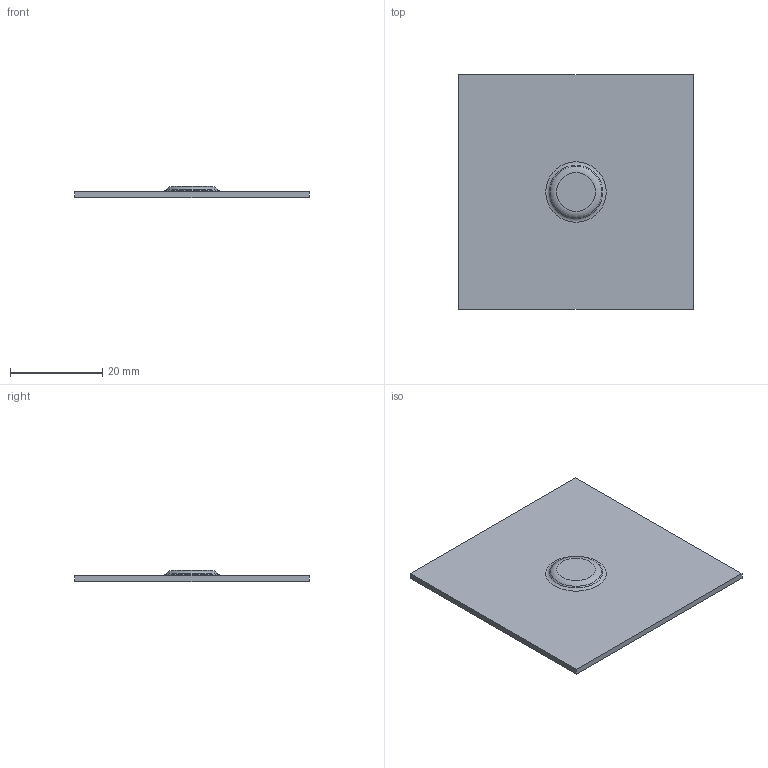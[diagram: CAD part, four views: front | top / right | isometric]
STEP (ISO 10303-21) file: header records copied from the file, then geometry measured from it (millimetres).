
FILE_DESCRIPTION(('PART XYZ REV A'),'1');
FILE_NAME('EF12','2012-03-30T16:14:46',('ERIC'),('TRIAX'),'Spatial Interop R21 SP3','Kubotek KeyCreator 2011 V10.5.0 (24766)','CHAZ');
FILE_SCHEMA(('CONFIG_CONTROL_DESIGN'));
Length unit declared in the file: inch
Products named in the file (1): 1
Bounding box: 50.8 x 50.8 x 2.39 mm (x, y, z)
Volume: 3292 mm3; surface area: 5442.4 mm2
Topology: 1 solids, 1 shells, 14 faces, 27 edges, 17 vertices
Faces by surface type: plane 8, torus 4, cone 2
Entity records: 370 total; most frequent: DIRECTION 60, CARTESIAN_POINT 53, ORIENTED_EDGE 42, AXIS2_PLACEMENT_3D 24, EDGE_LOOP 22, EDGE_CURVE 21, VERTEX_POINT 17, ADVANCED_FACE 14
